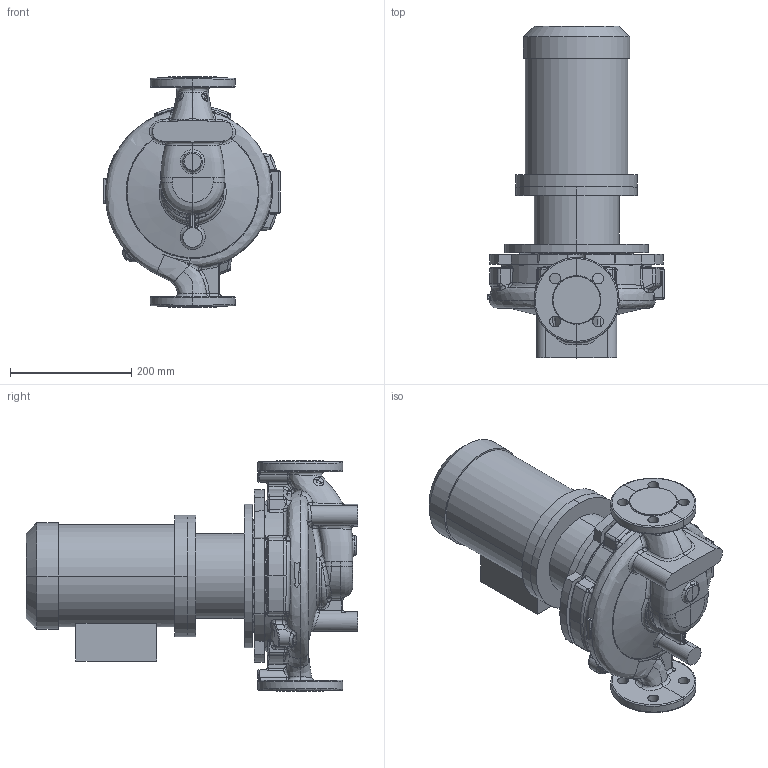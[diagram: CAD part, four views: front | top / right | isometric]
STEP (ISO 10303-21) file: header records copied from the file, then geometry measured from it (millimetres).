
FILE_DESCRIPTION (( 'STEP AP214' ), '1' );
FILE_NAME ('KRL 32-200-4-1,1.STEP', '2026-03-17T09:57:14', ( '' ), ( '' ), 'SwSTEP 2.0', 'SolidWorks 2016', '' );
FILE_SCHEMA (( 'AUTOMOTIVE_DESIGN' ));
Length unit declared in the file: millimetre
Products named in the file (1): KRL 32-200-4-1,1
Bounding box: 290 x 546.3 x 380 mm (x, y, z)
Volume: 16629382.8 mm3; surface area: 888313.2 mm2
Topology: 4 solids, 4 shells, 707 faces, 1709 edges, 1006 vertices
Faces by surface type: bspline 336, cylinder 155, plane 109, cone 45, torus 35, sphere 27
Entity records: 60736 total; most frequent: CARTESIAN_POINT 39439, ORIENTED_EDGE 3368, DIRECTION 2082, EDGE_CURVE 1684, VERTEX_POINT 1006, AXIS2_PLACEMENT_3D 899, EDGE_LOOP 744, B_SPLINE_CURVE_WITH_KNOTS 728
